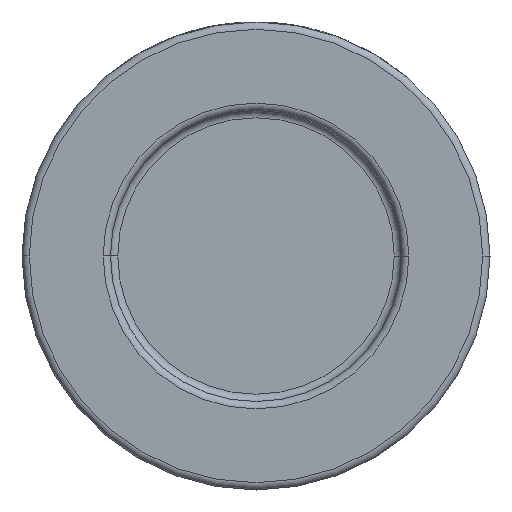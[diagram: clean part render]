
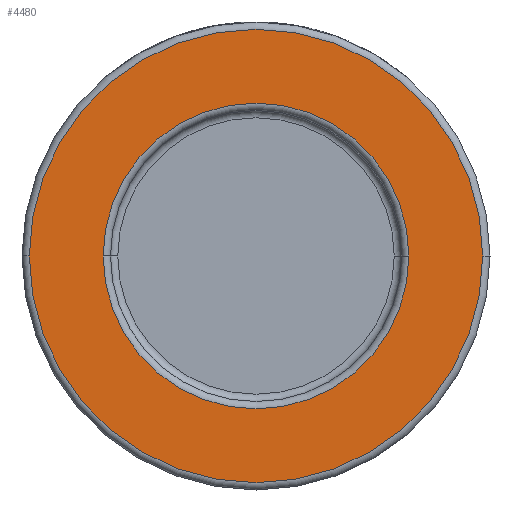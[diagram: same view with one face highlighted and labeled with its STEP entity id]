
A CAD part, front view. The second image highlights one B-rep face of the part: STEP entity #4480.
In plain terms, the highlighted planar face has unit normal (0, -1, 0).
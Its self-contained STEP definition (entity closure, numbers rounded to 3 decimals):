
#100 = CIRCLE ( 'NONE', #4143, 20.9 ) ;
#309 = CARTESIAN_POINT ( 'NONE',  ( 20.9, -22., 0. ) ) ;
#404 = FACE_BOUND ( 'NONE', #2234, .T. ) ;
#491 = EDGE_CURVE ( 'NONE', #2958, #3125, #693, .T. ) ;
#540 = AXIS2_PLACEMENT_3D ( 'NONE', #4249, #1775, #2814 ) ;
#693 = CIRCLE ( 'NONE', #3556, 31. ) ;
#995 = CARTESIAN_POINT ( 'NONE',  ( 0., -22., 0. ) ) ;
#1096 = DIRECTION ( 'NONE',  ( 0., -1., 0. ) ) ;
#1145 = CARTESIAN_POINT ( 'NONE',  ( 0., -22., 0. ) ) ;
#1183 = CARTESIAN_POINT ( 'NONE',  ( -31., -22., 0. ) ) ;
#1572 = DIRECTION ( 'NONE',  ( 0., 1., 0. ) ) ;
#1736 = DIRECTION ( 'NONE',  ( 1., 0., 0. ) ) ;
#1758 = CARTESIAN_POINT ( 'NONE',  ( -20.9, -22., 0. ) ) ;
#1775 = DIRECTION ( 'NONE',  ( 0., -1., 0. ) ) ;
#1891 = DIRECTION ( 'NONE',  ( 1., 0., 0. ) ) ;
#2101 = FACE_OUTER_BOUND ( 'NONE', #2716, .T. ) ;
#2234 = EDGE_LOOP ( 'NONE', ( #4101, #2427 ) ) ;
#2390 = DIRECTION ( 'NONE',  ( 0., -1., 0. ) ) ;
#2427 = ORIENTED_EDGE ( 'NONE', *, *, #4327, .T. ) ;
#2523 = AXIS2_PLACEMENT_3D ( 'NONE', #3460, #1096, #1736 ) ;
#2568 = VERTEX_POINT ( 'NONE', #309 ) ;
#2716 = EDGE_LOOP ( 'NONE', ( #2827, #2944 ) ) ;
#2792 = PLANE ( 'NONE',  #2523 ) ;
#2814 = DIRECTION ( 'NONE',  ( 1., 0., 0. ) ) ;
#2827 = ORIENTED_EDGE ( 'NONE', *, *, #491, .T. ) ;
#2944 = ORIENTED_EDGE ( 'NONE', *, *, #4524, .T. ) ;
#2958 = VERTEX_POINT ( 'NONE', #3415 ) ;
#3032 = CIRCLE ( 'NONE', #4518, 20.9 ) ;
#3038 = DIRECTION ( 'NONE',  ( 1., 0., 0. ) ) ;
#3125 = VERTEX_POINT ( 'NONE', #1183 ) ;
#3293 = DIRECTION ( 'NONE',  ( 0., 1., 0. ) ) ;
#3415 = CARTESIAN_POINT ( 'NONE',  ( 31., -22., 0. ) ) ;
#3460 = CARTESIAN_POINT ( 'NONE',  ( 32., -22., 0. ) ) ;
#3556 = AXIS2_PLACEMENT_3D ( 'NONE', #995, #2390, #3038 ) ;
#3579 = DIRECTION ( 'NONE',  ( 1., 0., 0. ) ) ;
#3621 = CARTESIAN_POINT ( 'NONE',  ( 0., -22., 0. ) ) ;
#4101 = ORIENTED_EDGE ( 'NONE', *, *, #4283, .T. ) ;
#4143 = AXIS2_PLACEMENT_3D ( 'NONE', #1145, #1572, #3579 ) ;
#4218 = CIRCLE ( 'NONE', #540, 31. ) ;
#4249 = CARTESIAN_POINT ( 'NONE',  ( 0., -22., 0. ) ) ;
#4283 = EDGE_CURVE ( 'NONE', #2568, #4478, #3032, .T. ) ;
#4327 = EDGE_CURVE ( 'NONE', #4478, #2568, #100, .T. ) ;
#4478 = VERTEX_POINT ( 'NONE', #1758 ) ;
#4480 = ADVANCED_FACE ( 'NONE', ( #404, #2101 ), #2792, .T. ) ;
#4518 = AXIS2_PLACEMENT_3D ( 'NONE', #3621, #3293, #1891 ) ;
#4524 = EDGE_CURVE ( 'NONE', #3125, #2958, #4218, .T. ) ;
